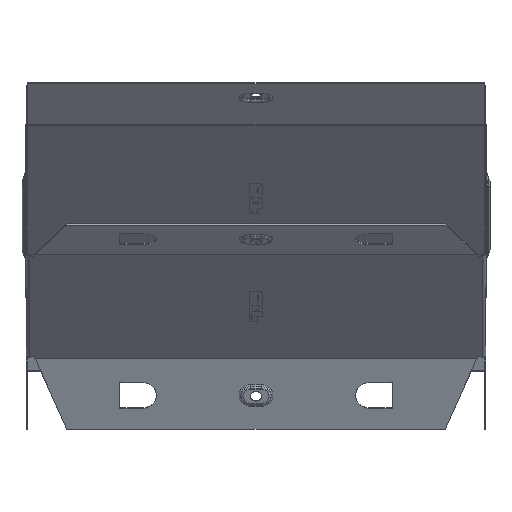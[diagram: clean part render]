
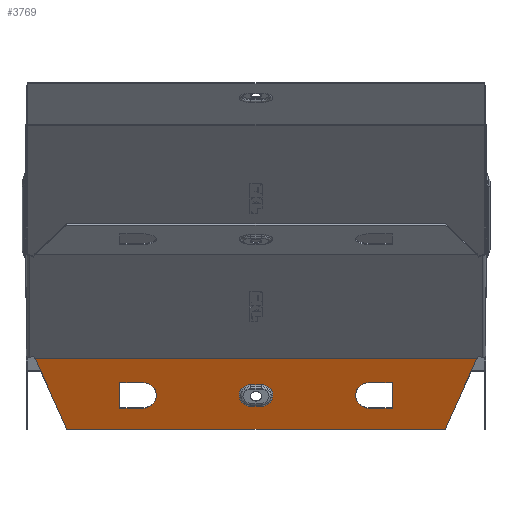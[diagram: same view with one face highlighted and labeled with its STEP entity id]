
A CAD part, top view. The second image highlights one B-rep face of the part: STEP entity #3769.
In plain terms, the highlighted planar face has unit normal (0, -0.383, 0.924).
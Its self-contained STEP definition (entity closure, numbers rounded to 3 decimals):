
#58 = CARTESIAN_POINT ( 'NONE',  ( 144.128, 1.934, -70.076 ) ) ;
#125 = LINE ( 'NONE', #9786, #5431 ) ;
#238 = VERTEX_POINT ( 'NONE', #11010 ) ;
#247 = CARTESIAN_POINT ( 'NONE',  ( 148.2, 1.934, -70.076 ) ) ;
#357 = CIRCLE ( 'NONE', #5293, 9. ) ;
#408 = CARTESIAN_POINT ( 'NONE',  ( 89., -13.588, -76.506 ) ) ;
#416 = LINE ( 'NONE', #1261, #3718 ) ;
#509 = ORIENTED_EDGE ( 'NONE', *, *, #11105, .T. ) ;
#519 = CARTESIAN_POINT ( 'NONE',  ( 3.5, -28.923, -82.857 ) ) ;
#1021 = DIRECTION ( 'NONE',  ( 0., 0.924, 0.383 ) ) ;
#1103 = CARTESIAN_POINT ( 'NONE',  ( -89., -13.588, -76.506 ) ) ;
#1159 = LINE ( 'NONE', #13942, #7278 ) ;
#1173 = ORIENTED_EDGE ( 'NONE', *, *, #2477, .T. ) ;
#1261 = CARTESIAN_POINT ( 'NONE',  ( 74., -30.218, -83.394 ) ) ;
#1527 = ORIENTED_EDGE ( 'NONE', *, *, #8833, .T. ) ;
#1580 = VERTEX_POINT ( 'NONE', #7182 ) ;
#1795 = DIRECTION ( 'NONE',  ( 0.383, -0.854, -0.354 ) ) ;
#1817 = VERTEX_POINT ( 'NONE', #8563 ) ;
#1832 = ORIENTED_EDGE ( 'NONE', *, *, #5938, .T. ) ;
#1975 = VERTEX_POINT ( 'NONE', #3508 ) ;
#2201 = CARTESIAN_POINT ( 'NONE',  ( 148.2, 2.118, -70. ) ) ;
#2473 = EDGE_CURVE ( 'NONE', #10260, #5505, #14742, .T. ) ;
#2477 = EDGE_CURVE ( 'NONE', #5928, #1975, #13101, .T. ) ;
#2713 = EDGE_CURVE ( 'NONE', #3042, #15081, #357, .T. ) ;
#2866 = ORIENTED_EDGE ( 'NONE', *, *, #7423, .T. ) ;
#2974 = CARTESIAN_POINT ( 'NONE',  ( -74., -13.588, -76.506 ) ) ;
#3042 = VERTEX_POINT ( 'NONE', #9178 ) ;
#3114 = EDGE_CURVE ( 'NONE', #1580, #14731, #5300, .T. ) ;
#3335 = DIRECTION ( 'NONE',  ( -1., 0., 0. ) ) ;
#3456 = DIRECTION ( 'NONE',  ( 0., 0.383, -0.924 ) ) ;
#3473 = DIRECTION ( 'NONE',  ( 0., 0.383, -0.924 ) ) ;
#3475 = VERTEX_POINT ( 'NONE', #6186 ) ;
#3508 = CARTESIAN_POINT ( 'NONE',  ( 89., -30.218, -83.394 ) ) ;
#3612 = CARTESIAN_POINT ( 'NONE',  ( 89., -13.588, -76.506 ) ) ;
#3718 = VECTOR ( 'NONE', #12988, 1000. ) ;
#3728 = AXIS2_PLACEMENT_3D ( 'NONE', #15247, #3456, #9604 ) ;
#3768 = ORIENTED_EDGE ( 'NONE', *, *, #5835, .T. ) ;
#3769 = ADVANCED_FACE ( 'NONE', ( #10414, #10048, #9886, #6512 ), #14129, .F. ) ;
#3978 = VERTEX_POINT ( 'NONE', #58 ) ;
#4206 = CARTESIAN_POINT ( 'NONE',  ( 123.5, -44.076, -89.134 ) ) ;
#4252 = VECTOR ( 'NONE', #7272, 1000. ) ;
#4457 = ORIENTED_EDGE ( 'NONE', *, *, #8659, .T. ) ;
#4528 = EDGE_LOOP ( 'NONE', ( #8008, #2866, #12779, #6351 ) ) ;
#4868 = CARTESIAN_POINT ( 'NONE',  ( 123.5, -44.076, -89.134 ) ) ;
#5293 = AXIS2_PLACEMENT_3D ( 'NONE', #6387, #9816, #13463 ) ;
#5300 = CIRCLE ( 'NONE', #3728, 7.598 ) ;
#5335 = AXIS2_PLACEMENT_3D ( 'NONE', #12160, #10916, #10860 ) ;
#5378 = CARTESIAN_POINT ( 'NONE',  ( -123.5, -44.076, -89.134 ) ) ;
#5431 = VECTOR ( 'NONE', #8484, 1000. ) ;
#5505 = VERTEX_POINT ( 'NONE', #2974 ) ;
#5747 = DIRECTION ( 'NONE',  ( 1., 0., 0. ) ) ;
#5818 = CARTESIAN_POINT ( 'NONE',  ( -3.5, -28.923, -82.857 ) ) ;
#5835 = EDGE_CURVE ( 'NONE', #15081, #5928, #9065, .T. ) ;
#5928 = VERTEX_POINT ( 'NONE', #3612 ) ;
#5938 = EDGE_CURVE ( 'NONE', #1975, #3042, #416, .T. ) ;
#6167 = DIRECTION ( 'NONE',  ( -1., 0., 0. ) ) ;
#6186 = CARTESIAN_POINT ( 'NONE',  ( -74., -30.218, -83.394 ) ) ;
#6351 = ORIENTED_EDGE ( 'NONE', *, *, #13128, .T. ) ;
#6387 = CARTESIAN_POINT ( 'NONE',  ( 74., -21.903, -79.95 ) ) ;
#6483 = EDGE_LOOP ( 'NONE', ( #1527, #14721, #4457, #13441 ) ) ;
#6512 = FACE_OUTER_BOUND ( 'NONE', #15108, .T. ) ;
#6596 = DIRECTION ( 'NONE',  ( 0.383, 0.854, 0.354 ) ) ;
#7060 = DIRECTION ( 'NONE',  ( 0., 0.924, 0.383 ) ) ;
#7097 = CIRCLE ( 'NONE', #5335, 9. ) ;
#7182 = CARTESIAN_POINT ( 'NONE',  ( 3.5, -14.883, -77.042 ) ) ;
#7272 = DIRECTION ( 'NONE',  ( -1., 0., 0. ) ) ;
#7278 = VECTOR ( 'NONE', #15284, 1000. ) ;
#7342 = VERTEX_POINT ( 'NONE', #10625 ) ;
#7423 = EDGE_CURVE ( 'NONE', #5505, #3475, #7097, .T. ) ;
#7438 = DIRECTION ( 'NONE',  ( 0., 0.383, -0.924 ) ) ;
#7785 = DIRECTION ( 'NONE',  ( 0., 0.924, 0.383 ) ) ;
#8008 = ORIENTED_EDGE ( 'NONE', *, *, #2473, .T. ) ;
#8297 = EDGE_LOOP ( 'NONE', ( #1832, #13845, #3768, #1173 ) ) ;
#8374 = AXIS2_PLACEMENT_3D ( 'NONE', #14477, #7438, #7785 ) ;
#8484 = DIRECTION ( 'NONE',  ( 1., 0., 0. ) ) ;
#8541 = LINE ( 'NONE', #247, #4252 ) ;
#8563 = CARTESIAN_POINT ( 'NONE',  ( -3.5, -14.883, -77.042 ) ) ;
#8570 = CARTESIAN_POINT ( 'NONE',  ( 74., -13.588, -76.506 ) ) ;
#8659 = EDGE_CURVE ( 'NONE', #1817, #1580, #125, .T. ) ;
#8679 = DIRECTION ( 'NONE',  ( 1., 0., 0. ) ) ;
#8833 = EDGE_CURVE ( 'NONE', #14731, #8885, #12490, .T. ) ;
#8848 = LINE ( 'NONE', #1103, #9227 ) ;
#8885 = VERTEX_POINT ( 'NONE', #5818 ) ;
#9003 = CARTESIAN_POINT ( 'NONE',  ( -123.5, -44.076, -89.134 ) ) ;
#9065 = LINE ( 'NONE', #12849, #11450 ) ;
#9178 = CARTESIAN_POINT ( 'NONE',  ( 74., -30.218, -83.394 ) ) ;
#9204 = CARTESIAN_POINT ( 'NONE',  ( -3.5, -28.923, -82.857 ) ) ;
#9227 = VECTOR ( 'NONE', #7060, 1000. ) ;
#9289 = CARTESIAN_POINT ( 'NONE',  ( -89., -13.588, -76.506 ) ) ;
#9353 = EDGE_CURVE ( 'NONE', #11131, #11644, #1159, .T. ) ;
#9604 = DIRECTION ( 'NONE',  ( 0., 0.924, 0.383 ) ) ;
#9786 = CARTESIAN_POINT ( 'NONE',  ( -3.5, -14.883, -77.042 ) ) ;
#9816 = DIRECTION ( 'NONE',  ( 0., 0.383, -0.924 ) ) ;
#9886 = FACE_BOUND ( 'NONE', #6483, .T. ) ;
#10048 = FACE_BOUND ( 'NONE', #4528, .T. ) ;
#10165 = DIRECTION ( 'NONE',  ( 0., -0.924, -0.383 ) ) ;
#10260 = VERTEX_POINT ( 'NONE', #9289 ) ;
#10354 = LINE ( 'NONE', #4206, #10724 ) ;
#10414 = FACE_BOUND ( 'NONE', #8297, .T. ) ;
#10625 = CARTESIAN_POINT ( 'NONE',  ( -89., -30.218, -83.394 ) ) ;
#10724 = VECTOR ( 'NONE', #6596, 1000. ) ;
#10743 = VECTOR ( 'NONE', #6167, 1000. ) ;
#10860 = DIRECTION ( 'NONE',  ( 0., 0.924, 0.383 ) ) ;
#10876 = VECTOR ( 'NONE', #10165, 1000. ) ;
#10916 = DIRECTION ( 'NONE',  ( 0., 0.383, -0.924 ) ) ;
#10940 = ORIENTED_EDGE ( 'NONE', *, *, #13701, .T. ) ;
#11010 = CARTESIAN_POINT ( 'NONE',  ( -144.128, 1.934, -70.076 ) ) ;
#11105 = EDGE_CURVE ( 'NONE', #3978, #238, #8541, .T. ) ;
#11131 = VERTEX_POINT ( 'NONE', #4868 ) ;
#11450 = VECTOR ( 'NONE', #5747, 1000. ) ;
#11464 = CIRCLE ( 'NONE', #8374, 7.598 ) ;
#11478 = ORIENTED_EDGE ( 'NONE', *, *, #11667, .T. ) ;
#11644 = VERTEX_POINT ( 'NONE', #5378 ) ;
#11667 = EDGE_CURVE ( 'NONE', #11131, #3978, #10354, .T. ) ;
#11984 = EDGE_CURVE ( 'NONE', #8885, #1817, #11464, .T. ) ;
#12083 = EDGE_CURVE ( 'NONE', #3475, #7342, #13330, .T. ) ;
#12160 = CARTESIAN_POINT ( 'NONE',  ( -74., -21.903, -79.95 ) ) ;
#12343 = VECTOR ( 'NONE', #1795, 1000. ) ;
#12388 = CARTESIAN_POINT ( 'NONE',  ( -74., -13.588, -76.506 ) ) ;
#12490 = LINE ( 'NONE', #9204, #14324 ) ;
#12779 = ORIENTED_EDGE ( 'NONE', *, *, #12083, .T. ) ;
#12849 = CARTESIAN_POINT ( 'NONE',  ( 74., -13.588, -76.506 ) ) ;
#12917 = VECTOR ( 'NONE', #8679, 1000. ) ;
#12959 = AXIS2_PLACEMENT_3D ( 'NONE', #2201, #3473, #1021 ) ;
#12988 = DIRECTION ( 'NONE',  ( -1., 0., 0. ) ) ;
#13101 = LINE ( 'NONE', #408, #10876 ) ;
#13128 = EDGE_CURVE ( 'NONE', #7342, #10260, #8848, .T. ) ;
#13257 = CARTESIAN_POINT ( 'NONE',  ( -74., -30.218, -83.394 ) ) ;
#13330 = LINE ( 'NONE', #13257, #10743 ) ;
#13441 = ORIENTED_EDGE ( 'NONE', *, *, #3114, .T. ) ;
#13463 = DIRECTION ( 'NONE',  ( 0., -0.924, -0.383 ) ) ;
#13701 = EDGE_CURVE ( 'NONE', #238, #11644, #15280, .T. ) ;
#13845 = ORIENTED_EDGE ( 'NONE', *, *, #2713, .T. ) ;
#13942 = CARTESIAN_POINT ( 'NONE',  ( 148.2, -44.076, -89.134 ) ) ;
#14129 = PLANE ( 'NONE',  #12959 ) ;
#14324 = VECTOR ( 'NONE', #3335, 1000. ) ;
#14477 = CARTESIAN_POINT ( 'NONE',  ( -3.5, -21.903, -79.95 ) ) ;
#14542 = ORIENTED_EDGE ( 'NONE', *, *, #9353, .F. ) ;
#14721 = ORIENTED_EDGE ( 'NONE', *, *, #11984, .T. ) ;
#14731 = VERTEX_POINT ( 'NONE', #519 ) ;
#14742 = LINE ( 'NONE', #12388, #12917 ) ;
#15081 = VERTEX_POINT ( 'NONE', #8570 ) ;
#15108 = EDGE_LOOP ( 'NONE', ( #10940, #14542, #11478, #509 ) ) ;
#15247 = CARTESIAN_POINT ( 'NONE',  ( 3.5, -21.903, -79.95 ) ) ;
#15280 = LINE ( 'NONE', #9003, #12343 ) ;
#15284 = DIRECTION ( 'NONE',  ( -1., 0., 0. ) ) ;
